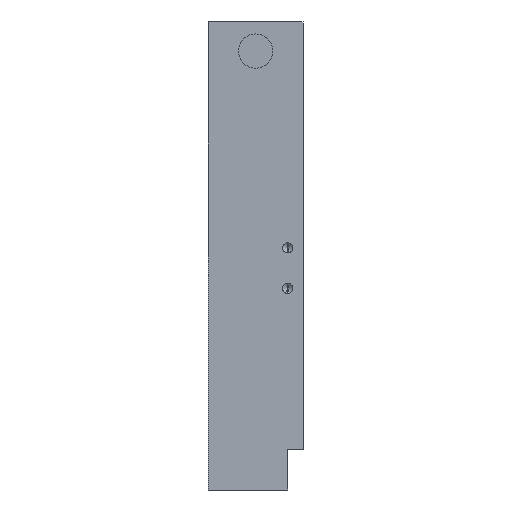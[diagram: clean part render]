
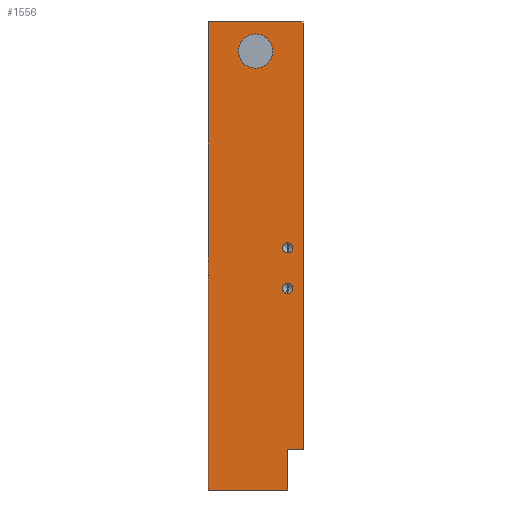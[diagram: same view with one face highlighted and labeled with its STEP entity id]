
A CAD part, left-side view. The second image highlights one B-rep face of the part: STEP entity #1556.
In plain terms, the highlighted planar face has unit normal (-1, 0, 0).
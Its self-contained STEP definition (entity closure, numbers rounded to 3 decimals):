
#6 = DIRECTION ( 'NONE',  ( -1., 0., 0. ) ) ;
#10 = LINE ( 'NONE', #240, #278 ) ;
#20 = EDGE_CURVE ( 'NONE', #1608, #1455, #688, .T. ) ;
#26 = DIRECTION ( 'NONE',  ( 0., 0., -1. ) ) ;
#38 = CIRCLE ( 'NONE', #1044, 1.25 ) ;
#53 = CARTESIAN_POINT ( 'NONE',  ( -59., 4., 2. ) ) ;
#63 = EDGE_CURVE ( 'NONE', #1383, #566, #224, .T. ) ;
#84 = CARTESIAN_POINT ( 'NONE',  ( -59., 4., -48. ) ) ;
#102 = DIRECTION ( 'NONE',  ( 0., 0., 1. ) ) ;
#105 = VERTEX_POINT ( 'NONE', #244 ) ;
#109 = VERTEX_POINT ( 'NONE', #567 ) ;
#111 = EDGE_LOOP ( 'NONE', ( #161, #1630 ) ) ;
#134 = ORIENTED_EDGE ( 'NONE', *, *, #1200, .F. ) ;
#137 = DIRECTION ( 'NONE',  ( -1., 0., 0. ) ) ;
#161 = ORIENTED_EDGE ( 'NONE', *, *, #225, .F. ) ;
#182 = CIRCLE ( 'NONE', #689, 4.25 ) ;
#203 = VERTEX_POINT ( 'NONE', #267 ) ;
#220 = ORIENTED_EDGE ( 'NONE', *, *, #999, .F. ) ;
#224 = LINE ( 'NONE', #1922, #1321 ) ;
#225 = EDGE_CURVE ( 'NONE', #845, #1832, #38, .T. ) ;
#240 = CARTESIAN_POINT ( 'NONE',  ( -59., 23.7, 58. ) ) ;
#244 = CARTESIAN_POINT ( 'NONE',  ( -59., 0., 42. ) ) ;
#249 = EDGE_CURVE ( 'NONE', #1741, #105, #1085, .T. ) ;
#267 = CARTESIAN_POINT ( 'NONE',  ( -59., 11.95, 46.55 ) ) ;
#278 = VECTOR ( 'NONE', #1323, 1000. ) ;
#292 = VECTOR ( 'NONE', #1915, 1000. ) ;
#301 = DIRECTION ( 'NONE',  ( 0., 0., 1. ) ) ;
#324 = VERTEX_POINT ( 'NONE', #1056 ) ;
#343 = DIRECTION ( 'NONE',  ( 0., 0., 1. ) ) ;
#367 = CARTESIAN_POINT ( 'NONE',  ( -59., 23.7, -58. ) ) ;
#369 = VECTOR ( 'NONE', #509, 1000. ) ;
#380 = EDGE_LOOP ( 'NONE', ( #1879, #627 ) ) ;
#387 = CARTESIAN_POINT ( 'NONE',  ( -59., 0., -48. ) ) ;
#391 = CARTESIAN_POINT ( 'NONE',  ( -59., 4., -9.25 ) ) ;
#397 = EDGE_CURVE ( 'NONE', #203, #1313, #1474, .T. ) ;
#454 = EDGE_LOOP ( 'NONE', ( #134, #900, #1954, #1853, #914, #1678, #864, #941 ) ) ;
#455 = DIRECTION ( 'NONE',  ( 0., 0., 1. ) ) ;
#509 = DIRECTION ( 'NONE',  ( 0., 0., 1. ) ) ;
#514 = CARTESIAN_POINT ( 'NONE',  ( -59., 23.7, -58. ) ) ;
#535 = EDGE_CURVE ( 'NONE', #1313, #203, #182, .T. ) ;
#566 = VERTEX_POINT ( 'NONE', #684 ) ;
#567 = CARTESIAN_POINT ( 'NONE',  ( -59., 4., -58. ) ) ;
#600 = CARTESIAN_POINT ( 'NONE',  ( -59., 23.7, 58. ) ) ;
#621 = CIRCLE ( 'NONE', #891, 1.25 ) ;
#626 = CARTESIAN_POINT ( 'NONE',  ( -59., 11.95, 50.8 ) ) ;
#627 = ORIENTED_EDGE ( 'NONE', *, *, #535, .F. ) ;
#629 = VERTEX_POINT ( 'NONE', #84 ) ;
#657 = VECTOR ( 'NONE', #301, 1000. ) ;
#680 = VECTOR ( 'NONE', #1928, 1000. ) ;
#684 = CARTESIAN_POINT ( 'NONE',  ( -59., 0.2, 42. ) ) ;
#686 = EDGE_CURVE ( 'NONE', #1455, #1383, #10, .T. ) ;
#688 = LINE ( 'NONE', #1609, #369 ) ;
#689 = AXIS2_PLACEMENT_3D ( 'NONE', #1279, #975, #26 ) ;
#694 = CIRCLE ( 'NONE', #1146, 1.25 ) ;
#769 = CARTESIAN_POINT ( 'NONE',  ( -59., 4., -8. ) ) ;
#796 = DIRECTION ( 'NONE',  ( 1., 0., 0. ) ) ;
#802 = CARTESIAN_POINT ( 'NONE',  ( -59., 4., 2. ) ) ;
#827 = DIRECTION ( 'NONE',  ( 0., -1., 0. ) ) ;
#838 = CARTESIAN_POINT ( 'NONE',  ( -59., 0.2, 42. ) ) ;
#844 = CARTESIAN_POINT ( 'NONE',  ( -59., 4., -58. ) ) ;
#845 = VERTEX_POINT ( 'NONE', #1659 ) ;
#855 = DIRECTION ( 'NONE',  ( 0., 0., -1. ) ) ;
#864 = ORIENTED_EDGE ( 'NONE', *, *, #20, .F. ) ;
#891 = AXIS2_PLACEMENT_3D ( 'NONE', #1940, #1051, #102 ) ;
#900 = ORIENTED_EDGE ( 'NONE', *, *, #1298, .T. ) ;
#914 = ORIENTED_EDGE ( 'NONE', *, *, #63, .F. ) ;
#928 = CARTESIAN_POINT ( 'NONE',  ( -59., 0., 58. ) ) ;
#938 = DIRECTION ( 'NONE',  ( 0., 0., -1. ) ) ;
#941 = ORIENTED_EDGE ( 'NONE', *, *, #1070, .T. ) ;
#974 = DIRECTION ( 'NONE',  ( -1., 0., 0. ) ) ;
#975 = DIRECTION ( 'NONE',  ( -1., 0., 0. ) ) ;
#999 = EDGE_CURVE ( 'NONE', #1793, #324, #694, .T. ) ;
#1044 = AXIS2_PLACEMENT_3D ( 'NONE', #769, #137, #455 ) ;
#1051 = DIRECTION ( 'NONE',  ( -1., 0., 0. ) ) ;
#1056 = CARTESIAN_POINT ( 'NONE',  ( -59., 4., 0.75 ) ) ;
#1065 = CARTESIAN_POINT ( 'NONE',  ( -59., 11.95, 55.05 ) ) ;
#1070 = EDGE_CURVE ( 'NONE', #1608, #109, #1205, .T. ) ;
#1085 = LINE ( 'NONE', #928, #657 ) ;
#1112 = PLANE ( 'NONE',  #1663 ) ;
#1116 = FACE_BOUND ( 'NONE', #111, .T. ) ;
#1127 = VECTOR ( 'NONE', #1326, 1000. ) ;
#1146 = AXIS2_PLACEMENT_3D ( 'NONE', #802, #974, #343 ) ;
#1186 = CARTESIAN_POINT ( 'NONE',  ( -59., 4., 3.25 ) ) ;
#1200 = EDGE_CURVE ( 'NONE', #629, #109, #1938, .T. ) ;
#1205 = LINE ( 'NONE', #514, #1643 ) ;
#1260 = EDGE_CURVE ( 'NONE', #566, #105, #1707, .T. ) ;
#1269 = EDGE_CURVE ( 'NONE', #324, #1793, #1365, .T. ) ;
#1279 = CARTESIAN_POINT ( 'NONE',  ( -59., 11.95, 50.8 ) ) ;
#1280 = ORIENTED_EDGE ( 'NONE', *, *, #1269, .F. ) ;
#1298 = EDGE_CURVE ( 'NONE', #629, #1741, #1745, .T. ) ;
#1308 = AXIS2_PLACEMENT_3D ( 'NONE', #53, #1775, #1467 ) ;
#1313 = VERTEX_POINT ( 'NONE', #1065 ) ;
#1321 = VECTOR ( 'NONE', #855, 1000. ) ;
#1323 = DIRECTION ( 'NONE',  ( 0., -1., 0. ) ) ;
#1326 = DIRECTION ( 'NONE',  ( 0., 0., -1. ) ) ;
#1348 = CARTESIAN_POINT ( 'NONE',  ( -59., 4., -48. ) ) ;
#1365 = CIRCLE ( 'NONE', #1308, 1.25 ) ;
#1383 = VERTEX_POINT ( 'NONE', #1542 ) ;
#1455 = VERTEX_POINT ( 'NONE', #600 ) ;
#1467 = DIRECTION ( 'NONE',  ( 0., 0., 1. ) ) ;
#1474 = CIRCLE ( 'NONE', #1516, 4.25 ) ;
#1516 = AXIS2_PLACEMENT_3D ( 'NONE', #626, #6, #938 ) ;
#1526 = EDGE_LOOP ( 'NONE', ( #220, #1280 ) ) ;
#1542 = CARTESIAN_POINT ( 'NONE',  ( -59., 0.2, 58. ) ) ;
#1556 = ADVANCED_FACE ( 'NONE', ( #1692, #1116, #1950, #1670 ), #1112, .F. ) ;
#1608 = VERTEX_POINT ( 'NONE', #367 ) ;
#1609 = CARTESIAN_POINT ( 'NONE',  ( -59., 23.7, 58. ) ) ;
#1630 = ORIENTED_EDGE ( 'NONE', *, *, #1968, .F. ) ;
#1643 = VECTOR ( 'NONE', #827, 1000. ) ;
#1659 = CARTESIAN_POINT ( 'NONE',  ( -59., 4., -6.75 ) ) ;
#1663 = AXIS2_PLACEMENT_3D ( 'NONE', #1709, #796, #1852 ) ;
#1670 = FACE_OUTER_BOUND ( 'NONE', #454, .T. ) ;
#1678 = ORIENTED_EDGE ( 'NONE', *, *, #686, .F. ) ;
#1692 = FACE_BOUND ( 'NONE', #1526, .T. ) ;
#1707 = LINE ( 'NONE', #838, #292 ) ;
#1709 = CARTESIAN_POINT ( 'NONE',  ( -59., 23.7, 58. ) ) ;
#1741 = VERTEX_POINT ( 'NONE', #387 ) ;
#1745 = LINE ( 'NONE', #1348, #680 ) ;
#1775 = DIRECTION ( 'NONE',  ( -1., 0., 0. ) ) ;
#1793 = VERTEX_POINT ( 'NONE', #1186 ) ;
#1832 = VERTEX_POINT ( 'NONE', #391 ) ;
#1852 = DIRECTION ( 'NONE',  ( 0., 0., -1. ) ) ;
#1853 = ORIENTED_EDGE ( 'NONE', *, *, #1260, .F. ) ;
#1879 = ORIENTED_EDGE ( 'NONE', *, *, #397, .F. ) ;
#1915 = DIRECTION ( 'NONE',  ( 0., -1., 0. ) ) ;
#1922 = CARTESIAN_POINT ( 'NONE',  ( -59., 0.2, 58. ) ) ;
#1928 = DIRECTION ( 'NONE',  ( 0., -1., 0. ) ) ;
#1938 = LINE ( 'NONE', #844, #1127 ) ;
#1940 = CARTESIAN_POINT ( 'NONE',  ( -59., 4., -8. ) ) ;
#1950 = FACE_BOUND ( 'NONE', #380, .T. ) ;
#1954 = ORIENTED_EDGE ( 'NONE', *, *, #249, .T. ) ;
#1968 = EDGE_CURVE ( 'NONE', #1832, #845, #621, .T. ) ;
